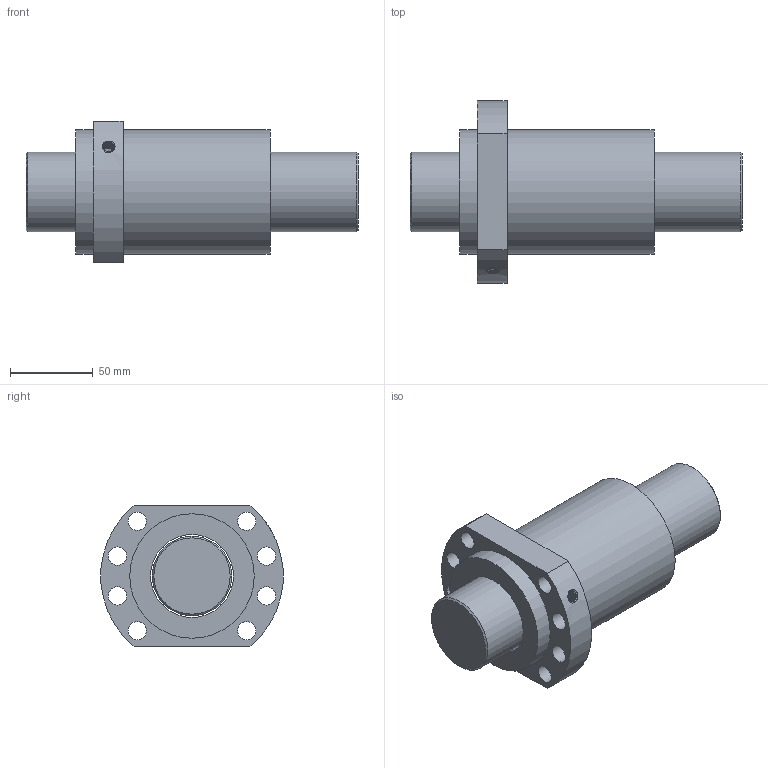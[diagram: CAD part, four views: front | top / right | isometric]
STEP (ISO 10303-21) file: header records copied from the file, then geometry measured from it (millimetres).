
FILE_DESCRIPTION(/* description */ ('Unknown','CAx-IF Rec.Pracs.---Representation and Presentation of Product Manufacturing Information (PMI)---4.0---2014-10-13','CAx-IF Rec.Pracs.---3D Tessellated Geometry---0.4---2014-09-14','2;1'),/* implementation_level */ '2;1');
FILE_NAME(/* name */ 'SFA5050-1.8',/* time_stamp */ '2020-12-08T11:39:56+08:00',/* author */ ('Unknown'),/* organization */ ('Unknown'),/* preprocessor_version */ 'ST-DEVELOPER v16.7',/* originating_system */ 'Solid Edge',/* authorisation */ 'Unknown');
FILE_SCHEMA (('AP242_MANAGED_MODEL_BASED_3D_ENGINEERING_MIM_LF { 1 0 10303 442 1 1 4 }'));
Length unit declared in the file: millimetre
Products named in the file (1): SFA5050-1.8
Bounding box: 200 x 109.65 x 85 mm (x, y, z)
Volume: 704772 mm3; surface area: 97944.1 mm2
Topology: 2 solids, 2 shells, 32 faces, 76 edges, 50 vertices
Faces by surface type: cylinder 18, plane 9, cone 3, bspline 2
Full cylindrical faces by diameter (mm): 3 x1, 6.917 x1, 11 x8, 48 x1, 50 x1, 75 x2
Entity records: 2736 total; most frequent: CARTESIAN_POINT 1976, DIRECTION 146, ORIENTED_EDGE 108, EDGE_LOOP 71, FACE_BOUND 71, AXIS2_PLACEMENT_3D 70, EDGE_CURVE 54, VERTEX_POINT 45
